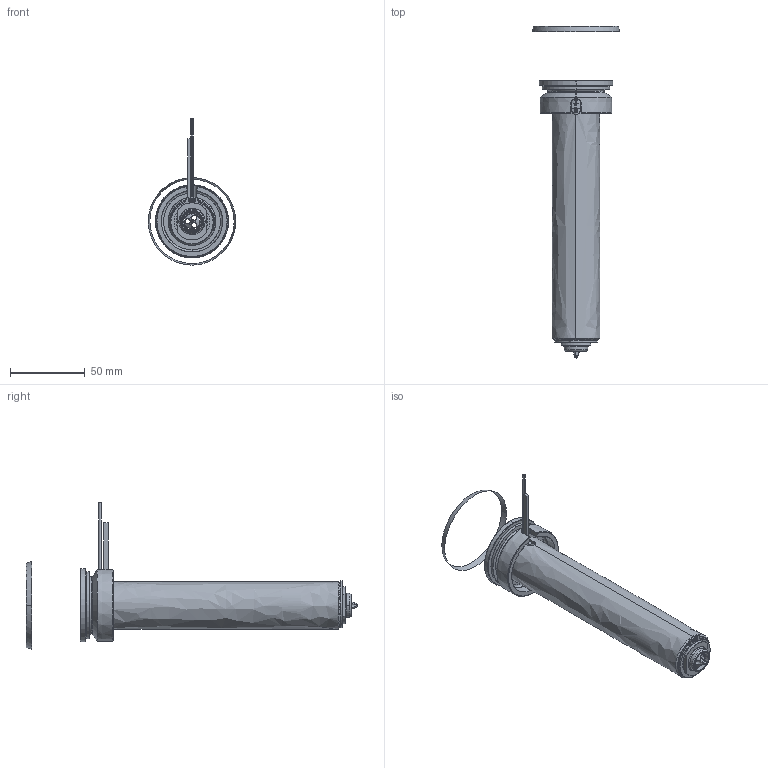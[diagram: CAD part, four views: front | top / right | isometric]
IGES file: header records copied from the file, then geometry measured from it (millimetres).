
Start section: SolidWorks IGES file using analytic representation for surfaces
Global section: file name: C:\Documents and Settings\ws-20\Desktop\TEM\UGEP5004-S-A-1 [Øf-1.55 ØC-13].IGS; native system: SolidWorks 2012; preprocessor: SolidWorks 2012; author: ws-20; date: 120426.102306; units: millimetre
Bounding box: 58.57 x 222.24 x 97.91 mm (x, y, z)
Surface area: 67627.5 mm2 (no closed solid volume)
Topology: 0 solids, 0 shells, 124 faces, 2362 edges, 2362 vertices
Faces by surface type: revolution 81, bspline 43
